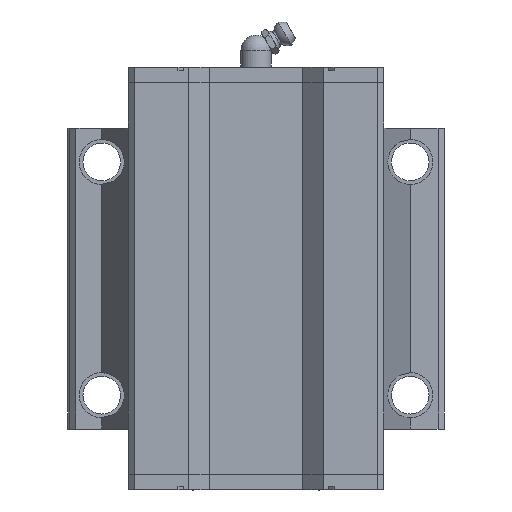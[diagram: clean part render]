
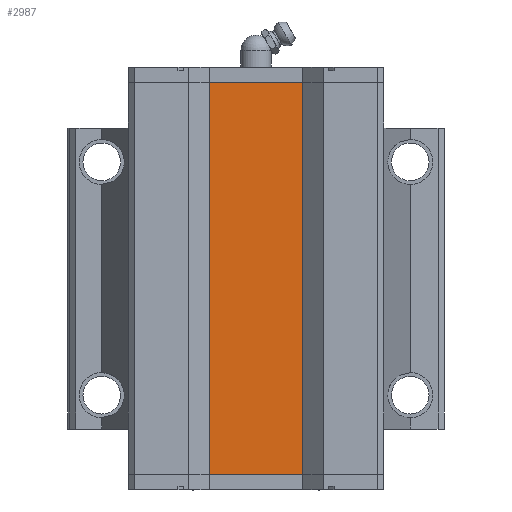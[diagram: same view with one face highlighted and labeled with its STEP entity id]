
A CAD part, front view. The second image highlights one B-rep face of the part: STEP entity #2987.
In plain terms, the highlighted planar face has unit normal (0, -1, 0).
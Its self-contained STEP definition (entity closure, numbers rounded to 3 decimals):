
#302 = EDGE_LOOP ( 'NONE', ( #908, #909, #910, #911 ) ) ;
#908 = ORIENTED_EDGE ( 'NONE', *, *, #9100, .F. ) ;
#909 = ORIENTED_EDGE ( 'NONE', *, *, #9099, .F. ) ;
#910 = ORIENTED_EDGE ( 'NONE', *, *, #9096, .F. ) ;
#911 = ORIENTED_EDGE ( 'NONE', *, *, #9102, .F. ) ;
#1884 = CARTESIAN_POINT ( 'NONE',  ( 12.464, 21.6, 52.15 ) ) ;
#1893 = CARTESIAN_POINT ( 'NONE',  ( 12.464, 21.6, -52.15 ) ) ;
#1896 = CARTESIAN_POINT ( 'NONE',  ( -12.464, 21.6, -52.15 ) ) ;
#1903 = CARTESIAN_POINT ( 'NONE',  ( -12.464, 21.6, 52.15 ) ) ;
#2327 = AXIS2_PLACEMENT_3D ( 'NONE', #4838, #4843, #4844 ) ;
#2987 = ADVANCED_FACE ( 'NONE', ( #11520 ), #4840, .F. ) ;
#4838 = CARTESIAN_POINT ( 'NONE',  ( 12.464, 21.6, -52.15 ) ) ;
#4840 = PLANE ( 'NONE',  #2327 ) ;
#4843 = DIRECTION ( 'NONE',  ( 0., 1., 0. ) ) ;
#4844 = DIRECTION ( 'NONE',  ( 0., 0., 1. ) ) ;
#7517 = LINE ( 'NONE', #8821, #7524 ) ;
#7521 = LINE ( 'NONE', #8820, #7530 ) ;
#7524 = VECTOR ( 'NONE', #8826, 1000. ) ;
#7529 = LINE ( 'NONE', #8833, #7532 ) ;
#7530 = VECTOR ( 'NONE', #8832, 1000. ) ;
#7532 = VECTOR ( 'NONE', #8834, 1000. ) ;
#7533 = LINE ( 'NONE', #8836, #7536 ) ;
#7536 = VECTOR ( 'NONE', #8837, 1000. ) ;
#8820 = CARTESIAN_POINT ( 'NONE',  ( 12.464, 21.6, -52.15 ) ) ;
#8821 = CARTESIAN_POINT ( 'NONE',  ( 12.464, 21.6, 52.15 ) ) ;
#8826 = DIRECTION ( 'NONE',  ( 1., 0., 0. ) ) ;
#8832 = DIRECTION ( 'NONE',  ( 0., 0., -1. ) ) ;
#8833 = CARTESIAN_POINT ( 'NONE',  ( 12.464, 21.6, -52.15 ) ) ;
#8834 = DIRECTION ( 'NONE',  ( -1., 0., 0. ) ) ;
#8836 = CARTESIAN_POINT ( 'NONE',  ( -12.464, 21.6, -52.15 ) ) ;
#8837 = DIRECTION ( 'NONE',  ( 0., 0., 1. ) ) ;
#9096 = EDGE_CURVE ( 'NONE', #10482, #10463, #7517, .T. ) ;
#9099 = EDGE_CURVE ( 'NONE', #10463, #10472, #7521, .T. ) ;
#9100 = EDGE_CURVE ( 'NONE', #10472, #10475, #7529, .T. ) ;
#9102 = EDGE_CURVE ( 'NONE', #10475, #10482, #7533, .T. ) ;
#10463 = VERTEX_POINT ( 'NONE', #1884 ) ;
#10472 = VERTEX_POINT ( 'NONE', #1893 ) ;
#10475 = VERTEX_POINT ( 'NONE', #1896 ) ;
#10482 = VERTEX_POINT ( 'NONE', #1903 ) ;
#11520 = FACE_OUTER_BOUND ( 'NONE', #302, .T. ) ;
